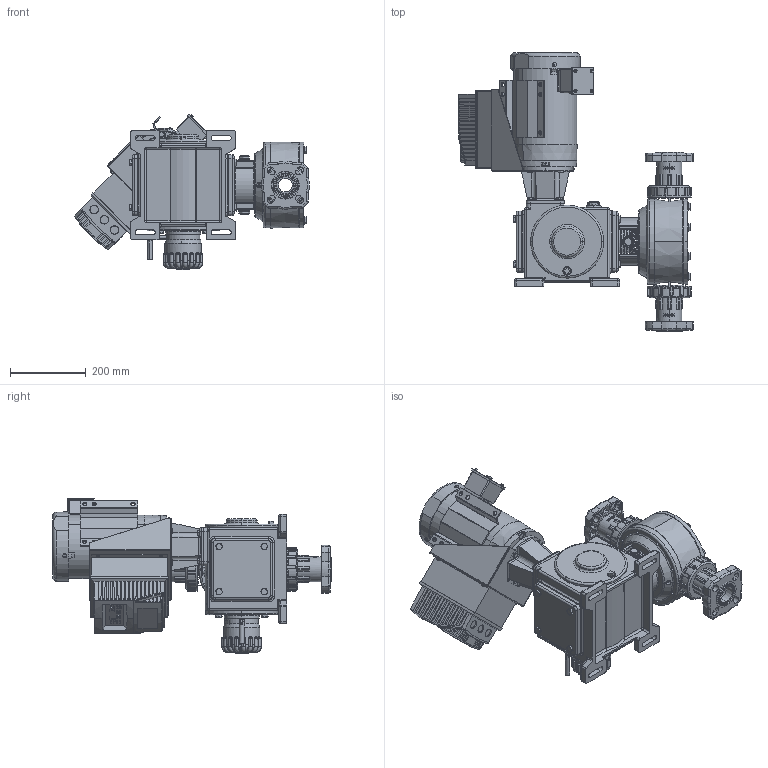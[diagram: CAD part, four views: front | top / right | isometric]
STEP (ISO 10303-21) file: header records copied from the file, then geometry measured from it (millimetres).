
FILE_DESCRIPTION (( 'STEP AP203' ), '1' );
FILE_NAME ('DM7JVFH.STEP', '2025-03-20T19:09:20', ( '' ), ( '' ), 'SwSTEP 2.0', 'SolidWorks 2023', '' );
FILE_SCHEMA (( 'CONFIG_CONTROL_DESIGN' ));
Products named in the file (1): DM7JVFH
Bounding box: 618.14 x 733.09 x 408.65 mm (x, y, z)
Surface area: 1524826.4 mm2 (no closed solid volume)
Topology: 0 solids, 211 shells, 2874 faces, 12847 edges, 9831 vertices
Faces by surface type: plane 1162, cylinder 891, cone 283, torus 271, bspline 213, sphere 54
Entity records: 164635 total; most frequent: CARTESIAN_POINT 66632, DIRECTION 18917, ORIENTED_EDGE 18162, EDGE_CURVE 12754, VERTEX_POINT 9831, LINE 6735, VECTOR 6735, AXIS2_PLACEMENT_3D 6091
